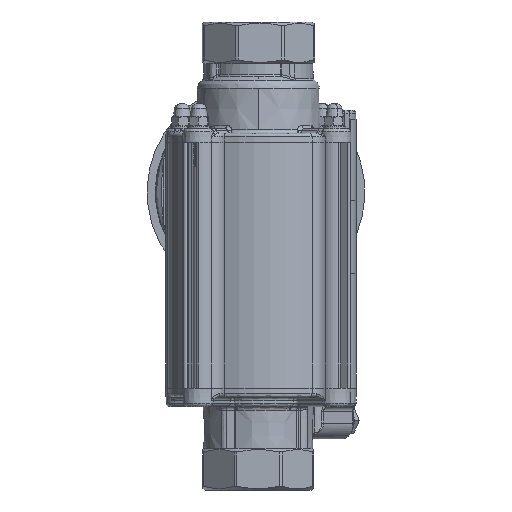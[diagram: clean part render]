
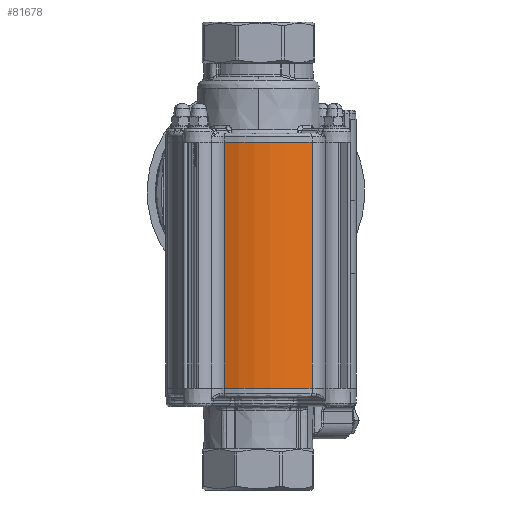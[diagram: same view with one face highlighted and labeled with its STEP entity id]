
A CAD part, front view. The second image highlights one B-rep face of the part: STEP entity #81678.
In plain terms, the highlighted cylindrical face has radius 39.1 mm (diameter 78.2 mm), a partial arc.
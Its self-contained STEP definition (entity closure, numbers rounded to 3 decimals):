
#5095 = VERTEX_POINT ( 'NONE', #50796 ) ;
#11862 = CARTESIAN_POINT ( 'NONE',  ( 0., 0., 106. ) ) ;
#12434 = ORIENTED_EDGE ( 'NONE', *, *, #20528, .T. ) ;
#15381 = ORIENTED_EDGE ( 'NONE', *, *, #81626, .T. ) ;
#18990 = DIRECTION ( 'NONE',  ( 1., 0., 0. ) ) ;
#20528 = EDGE_CURVE ( 'NONE', #50041, #5095, #85653, .T. ) ;
#21496 = AXIS2_PLACEMENT_3D ( 'NONE', #46289, #53236, #39393 ) ;
#27402 = CIRCLE ( 'NONE', #60538, 39.1 ) ;
#28095 = ORIENTED_EDGE ( 'NONE', *, *, #86191, .T. ) ;
#28870 = EDGE_LOOP ( 'NONE', ( #41025, #12434, #28095, #15381 ) ) ;
#29639 = CIRCLE ( 'NONE', #51183, 39.1 ) ;
#31531 = VERTEX_POINT ( 'NONE', #60562 ) ;
#31889 = VECTOR ( 'NONE', #89032, 1000. ) ;
#32688 = CARTESIAN_POINT ( 'NONE',  ( -14.725, -36.221, 106. ) ) ;
#39393 = DIRECTION ( 'NONE',  ( -1., 0., 0. ) ) ;
#40803 = DIRECTION ( 'NONE',  ( 0., 0., 1. ) ) ;
#41025 = ORIENTED_EDGE ( 'NONE', *, *, #86131, .F. ) ;
#46289 = CARTESIAN_POINT ( 'NONE',  ( 0., 0., 106. ) ) ;
#50041 = VERTEX_POINT ( 'NONE', #32688 ) ;
#50796 = CARTESIAN_POINT ( 'NONE',  ( -14.725, -36.221, 0. ) ) ;
#51183 = AXIS2_PLACEMENT_3D ( 'NONE', #11862, #61316, #18990 ) ;
#53236 = DIRECTION ( 'NONE',  ( 0., 0., -1. ) ) ;
#56957 = LINE ( 'NONE', #77648, #71188 ) ;
#58198 = CARTESIAN_POINT ( 'NONE',  ( 23.18, -31.488, 106. ) ) ;
#60489 = VERTEX_POINT ( 'NONE', #58198 ) ;
#60538 = AXIS2_PLACEMENT_3D ( 'NONE', #82599, #40803, #89617 ) ;
#60562 = CARTESIAN_POINT ( 'NONE',  ( 23.18, -31.488, 0. ) ) ;
#61316 = DIRECTION ( 'NONE',  ( 0., 0., 1. ) ) ;
#71188 = VECTOR ( 'NONE', #84660, 1000. ) ;
#74389 = CYLINDRICAL_SURFACE ( 'NONE', #21496, 39.1 ) ;
#77648 = CARTESIAN_POINT ( 'NONE',  ( 23.18, -31.488, 106. ) ) ;
#80965 = FACE_OUTER_BOUND ( 'NONE', #28870, .T. ) ;
#81626 = EDGE_CURVE ( 'NONE', #31531, #60489, #56957, .T. ) ;
#81678 = ADVANCED_FACE ( 'NONE', ( #80965 ), #74389, .T. ) ;
#82599 = CARTESIAN_POINT ( 'NONE',  ( 0., 0., 0. ) ) ;
#84660 = DIRECTION ( 'NONE',  ( 0., 0., 1. ) ) ;
#85653 = LINE ( 'NONE', #86970, #31889 ) ;
#86131 = EDGE_CURVE ( 'NONE', #50041, #60489, #29639, .T. ) ;
#86191 = EDGE_CURVE ( 'NONE', #5095, #31531, #27402, .T. ) ;
#86970 = CARTESIAN_POINT ( 'NONE',  ( -14.725, -36.221, 106. ) ) ;
#89032 = DIRECTION ( 'NONE',  ( 0., 0., -1. ) ) ;
#89617 = DIRECTION ( 'NONE',  ( 1., 0., 0. ) ) ;
